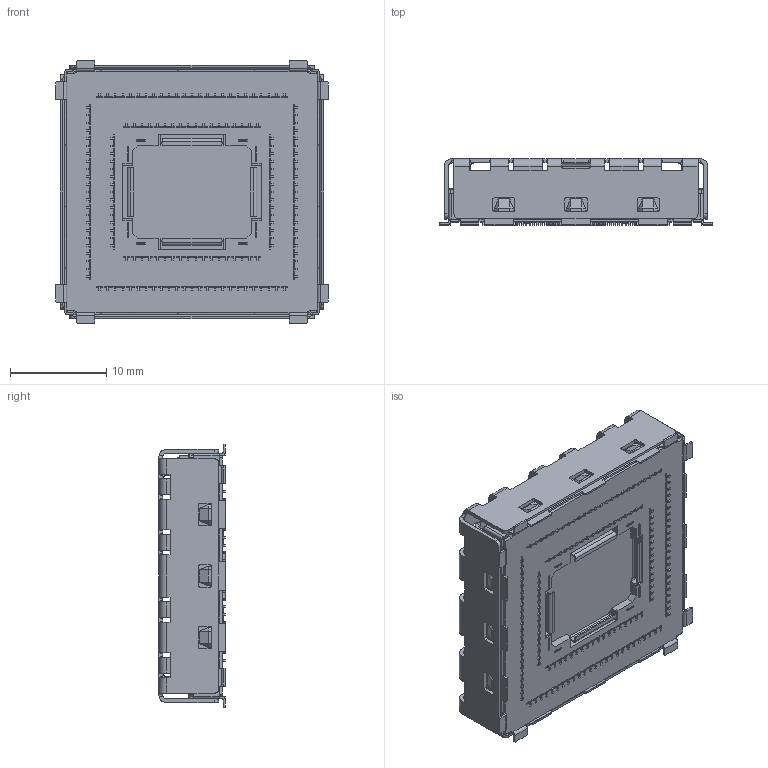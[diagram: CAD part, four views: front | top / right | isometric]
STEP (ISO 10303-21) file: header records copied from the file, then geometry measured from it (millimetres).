
FILE_DESCRIPTION((''),'2;1');
FILE_NAME('SNAP_IN_FOR_WP_4_4MM_MODULE','2017-03-30T',('JPM'),(''),'PRO/ENGINEER BY PARAMETRIC TECHNOLOGY CORPORATION, 2014090','PRO/ENGINEER BY PARAMETRIC TECHNOLOGY CORPORATION, 2014090','');
FILE_SCHEMA(('CONFIG_CONTROL_DESIGN'));
Products named in the file (1): SNAP_IN_FOR_WP_4_4MM_MODULE
Bounding box: 28.4 x 6.88 x 27.4 mm (x, y, z)
Volume: 1502.9 mm3; surface area: 4871.3 mm2
Topology: 1 solids, 1 shells, 4425 faces, 12590 edges, 8272 vertices
Faces by surface type: plane 3218, cylinder 1199, cone 8
Entity records: 143034 total; most frequent: CARTESIAN_POINT 25457, ORIENTED_EDGE 25180, DIRECTION 23798, EDGE_CURVE 12590, VECTOR 10160, LINE 10160, VERTEX_POINT 8272, AXIS2_PLACEMENT_3D 6819
